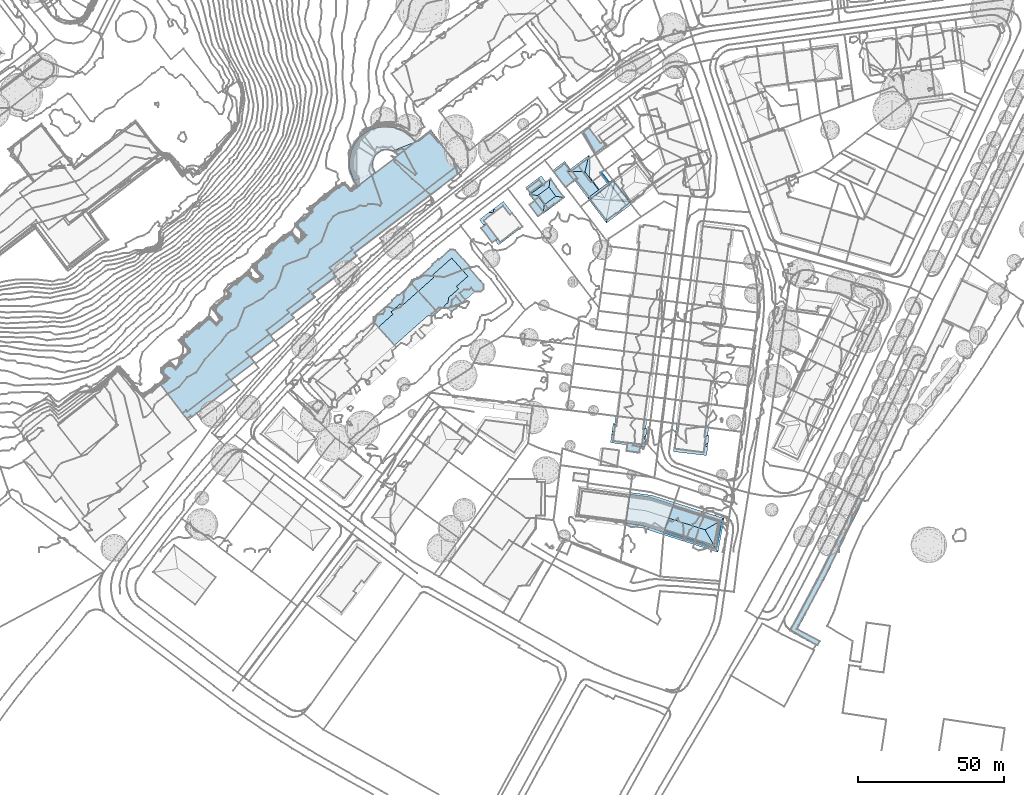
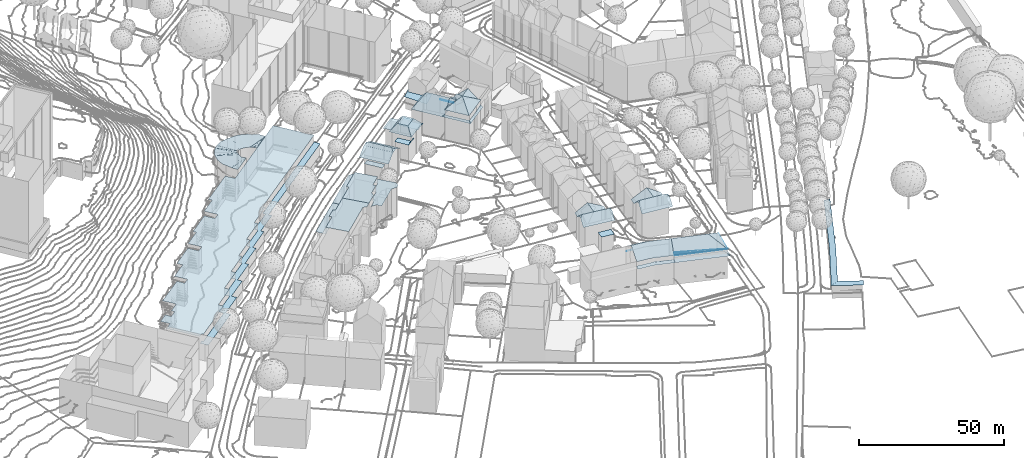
# Not in any storey, part 66 of 494: 28 roofs.
"""IFC2X3 model written with IfcOpenShell, lengths in metres."""

from ifc_helpers import new_model, si_unit, frame, origin_with_axes, place, context, subcontext, project, faceted_brep, element, save


model = new_model("IFC2X3")

# Units and contexts
model_context = context("Model", 3, precision=1e-05, world=origin_with_axes())
body_context = subcontext(model_context, "Body", "Model", "MODEL_VIEW")
ifc_project = project(units=[si_unit("AREAUNIT", "SQUARE_METRE"), si_unit("LENGTHUNIT", "METRE")], contexts=[model_context])

# Roofs
roof_1_placement = place(None, frame((352.5117320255, 77.5340160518, 499.5586), z_axis=(0.0, 0.0, 1.0), x_axis=(1.0, 0.0, 0.0)))
element("IfcRoof", 1, at=roof_1_placement, Name="Roof 1", ShapeType="NOTDEFINED", context=body_context, shape_type="Brep", body=[
    faceted_brep([(15.2990000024, 10.5371000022, 12.5588), (8.9560000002, 6.1123000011, 12.5588), (9.5549999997, 5.4375, 12.5588), (6.3170000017, 7.4219000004, 12.5588), (5.8819999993, 3.384800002, 12.5588), (1.5899999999, -1.7901000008, 12.5588), (6.5600000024, 2.621100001, 12.5588), (0.0, 0.0, 12.5588), (13.0700000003, 13.0361000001, 12.5588), (12.8830000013, 13.25, 12.5588), (8.2180000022, 9.1084000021, 12.5588), (-0.2809999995, 0.4121000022, 12.5588), (-0.3279999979, 0.370099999, 12.5588), (-0.4979999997, 1.3729999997, 12.5588)], [[[0, 1, 2]], [[3, 4, 1]], [[5, 6, 4]], [[4, 7, 5]], [[3, 7, 4]], [[1, 0, 8]], [[8, 9, 10]], [[3, 1, 10]], [[11, 12, 7]], [[3, 13, 11]], [[7, 3, 11]], [[10, 1, 8]]]),
])
roof_2_placement = place(None, frame((352.5117320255, 77.5340160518, 499.5586), z_axis=(0.0, 0.0, 1.0), x_axis=(1.0, 0.0, 0.0)))
element("IfcRoof", 2, at=roof_2_placement, Name="Roof 2", ShapeType="NOTDEFINED", context=body_context, shape_type="Brep", body=[
    faceted_brep([(7.1150000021, -8.0126999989, 15.3595), (6.5600000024, 2.621100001, 15.3595), (1.5899999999, -1.7901000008, 15.3595), (9.5549999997, 5.4375, 15.3595), (18.5270000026, 2.1182000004, 15.3595), (5.8819999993, 3.384800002, 15.3595), (8.9560000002, 6.1123000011, 15.3595), (20.1009999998, 1.884800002, 15.3595), (21.7280000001, 3.3291000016, 15.3595), (15.3010000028, 10.5381000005, 15.3595)], [[[0, 1, 2]], [[3, 1, 4]], [[5, 1, 3]], [[5, 3, 6]], [[1, 0, 4]], [[7, 8, 4]], [[9, 3, 4]], [[9, 4, 8]]]),
])
roof_3_placement = place(None, frame((365.5087320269, 90.6648160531, 499.5586), z_axis=(0.0, 0.0, 1.0), x_axis=(1.0, 0.0, 0.0)))
element("IfcRoof", 3, at=roof_3_placement, Name="Roof 0", ShapeType="NOTDEFINED", context=body_context, shape_type="Brep", body=[
    faceted_brep([(1.9189999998, 1.9239000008, 12.5588), (0.0769999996, -0.0908000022, 12.5588), (2.305999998, -2.5908000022, 12.5588), (0.0219999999, 0.2402999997, 12.5588), (0.0, 0.0, 12.5588), (12.3619999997, -8.5234000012, 12.5587), (13.6229999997, -9.9433000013, 12.5587), (12.4389999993, -6.5107000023, 12.5587), (12.5339999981, -4.9149999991, 12.5587), (10.2949999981, -8.4140000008, 12.5587), (6.9290000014, 2.7188000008, 12.5588), (7.1680000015, 6.5830999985, 12.5588), (7.5280000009, 2.0439999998, 12.5588), (-0.1140000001, 0.1191999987, 12.5588), (9.0339999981, 8.2392999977, 12.5588), (13.6550000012, 8.6895000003, 12.5588), (12.8280000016, 11.6064999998, 12.5588), (16.0089999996, -1.8310000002, 12.5587), (21.5590000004, -2.8993999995, 12.5587), (24.8040000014, -0.2294000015, 12.5587), (23.7049999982, -2.8564000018, 12.5587), (24.7529999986, -1.9248000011, 12.5587), (14.7800000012, 11.5742999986, 12.5588), (20.3209999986, 5.3242999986, 12.5587), (19.186999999, 2.4589999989, 12.5587), (15.2800000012, -1.0097000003, 12.5587), (20.1889999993, 4.9707999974, 12.5587), (20.436999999, 5.2021999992, 12.5587)], [[[0, 1, 2]], [[1, 3, 4]], [[5, 6, 7]], [[6, 8, 7]], [[5, 7, 9]], [[0, 3, 1]], [[0, 10, 11]], [[12, 10, 0]], [[13, 4, 3]], [[10, 14, 11]], [[14, 10, 15]], [[14, 15, 16]], [[12, 0, 2]], [[6, 17, 8]], [[6, 18, 17]], [[19, 18, 20]], [[21, 19, 20]], [[15, 22, 16]], [[23, 22, 15]], [[24, 25, 17]], [[24, 19, 26]], [[24, 17, 18]], [[26, 27, 23]], [[23, 15, 26]], [[26, 15, 24]], [[18, 19, 24]]]),
])
roof_4_placement = place(None, frame((365.5087320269, 90.6648160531, 499.5586), z_axis=(0.0, 0.0, 1.0), x_axis=(1.0, 0.0, 0.0)))
element("IfcRoof", 4, at=roof_4_placement, Name="Roof 1", ShapeType="NOTDEFINED", context=body_context, shape_type="Brep", body=[
    faceted_brep([(7.5280000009, 2.0439999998, 15.3595), (2.3040000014, -2.5927000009, 15.3595), (15.2800000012, -1.0097000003, 15.3595), (13.6550000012, 8.6895000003, 15.3595), (6.9290000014, 2.7188000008, 15.3595), (19.186999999, 2.4589999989, 15.3595), (12.5339999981, -4.9149999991, 15.3595), (8.7309999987, -9.8016999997, 15.3595), (12.4389999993, -6.5107000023, 15.3595), (16.0089999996, -1.8310000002, 15.3595)], [[[0, 1, 2]], [[0, 3, 4]], [[5, 3, 0]], [[5, 0, 2]], [[1, 6, 2]], [[7, 8, 6]], [[9, 2, 6]], [[7, 6, 1]]]),
])
roof_5_placement = place(None, frame((211.8297320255, 101.9383160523, 526.7541), z_axis=(0.0, 0.0, 1.0), x_axis=(1.0, 0.0, 0.0)))
element("IfcRoof", 5, at=roof_5_placement, Name="Roof 64", ShapeType="NOTDEFINED", context=body_context, shape_type="Brep", body=[
    faceted_brep([(282.887000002, -130.2734999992, -22.4803), (292.5879999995, -135.4990000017, -22.4103), (285.5199999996, -129.5850000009, -22.1683), (293.699000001, -133.6816999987, -22.0663), (285.8509999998, -129.4981000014, -22.1293), (286.8520000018, -122.9629000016, -22.4553), (288.9610000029, -118.9618999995, -22.4413), (295.0970000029, -112.2734999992, -22.0813), (308.262000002, -85.4862999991, -22.1743), (308.0360000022, -85.378899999, -22.2123), (293.1669999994, -111.2822000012, -22.4163), (306.381000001, -84.5868999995, -22.4942), (306.6080000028, -84.6953000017, -22.4562)], [[[0, 1, 2]], [[2, 3, 4]], [[3, 2, 1]], [[5, 2, 4]], [[6, 4, 7]], [[5, 4, 6]], [[5, 0, 2]], [[8, 9, 7]], [[7, 10, 6]], [[10, 7, 11]], [[12, 11, 7]], [[7, 9, 12]]]),
])
roof_6_placement = place(None, frame((389.3167320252, 109.6180160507, 499.0156), z_axis=(0.0, 0.0, 1.0), x_axis=(1.0, 0.0, 0.0)))
element("IfcRoof", 6, at=roof_6_placement, Name="Roof 0", ShapeType="NOTDEFINED", context=body_context, shape_type="Brep", body=[
    faceted_brep([(3.870000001, -5.111399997, 9.6401), (5.7160000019, -3.7118999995, 9.6401), (-0.2009999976, 0.2656000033, 9.6401), (1.6130000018, 1.6396000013, 9.6401)], [[[0, 1, 2]], [[3, 2, 1]]]),
])
roof_7_placement = place(None, frame((389.3167320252, 109.6180160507, 499.0156), z_axis=(0.0, 0.0, 1.0), x_axis=(1.0, 0.0, 0.0)))
element("IfcRoof", 7, at=roof_7_placement, Name="Roof 1", ShapeType="NOTDEFINED", context=body_context, shape_type="Brep", body=[
    faceted_brep([(10.6339999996, 5.1308000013, 10.965), (7.5760000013, 9.1689000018, 10.965), (4.3320000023, 6.7119000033, 13.2738), (13.0810000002, -0.3320999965, 11.7299), (10.6440000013, -1.620099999, 13.2737), (10.9120000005, -1.9745999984, 13.2737), (14.1560000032, 0.4814000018, 10.965), (2.5450000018, 5.3574000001, 13.2738), (4.0360000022, 5.2470000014, 14.3296), (9.2550000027, -2.6855999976, 13.7377), (3.2840000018, 4.3828000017, 13.2737), (9.4210000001, -1.8642999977, 14.3296), (9.125, -3.3290999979, 13.2737), (-0.6989999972, 2.9004000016, 10.965), (5.881000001, -5.7861999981, 10.965), (10.2460000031, -1.9247999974, 13.7447)], [[[0, 1, 2]], [[2, 3, 0]], [[4, 5, 3]], [[6, 0, 3]], [[3, 2, 4]], [[2, 7, 8]], [[8, 7, 9]], [[9, 7, 10]], [[11, 8, 9]], [[9, 10, 12]], [[13, 10, 7]], [[10, 13, 14]], [[14, 12, 10]], [[9, 12, 5]], [[15, 11, 9]], [[5, 15, 9]], [[2, 8, 4]], [[11, 15, 4]], [[5, 4, 15]], [[11, 4, 8]]]),
])
roof_8_placement = place(None, frame((405.0787320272, 122.9930160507, 499.2066), z_axis=(0.0, 0.0, 1.0), x_axis=(1.0, 0.0, 0.0)))
element("IfcRoof", 8, at=roof_8_placement, Name="Roof 0", ShapeType="NOTDEFINED", context=body_context, shape_type="Brep", body=[
    faceted_brep([(5.6070000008, -7.8857999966, 8.2642), (2.5229999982, -3.8632999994, 8.2642), (0.4899999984, -5.3691999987, 8.2642), (3.5839999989, -9.5458999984, 8.2642), (7.2789999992, -6.8085999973, 8.2642), (7.1750000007, -6.6679999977, 8.2642)], [[[0, 1, 2]], [[0, 3, 4]], [[3, 0, 2]], [[0, 4, 5]]]),
])
roof_9_placement = place(None, frame((405.0787320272, 122.9930160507, 499.2066), z_axis=(0.0, 0.0, 1.0), x_axis=(1.0, 0.0, 0.0)))
element("IfcRoof", 9, at=roof_9_placement, Name="Roof 1", ShapeType="NOTDEFINED", context=body_context, shape_type="Brep", body=[
    faceted_brep([(3.4679999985, -2.2675999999, 13.0277), (5.7729999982, -5.3779999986, 13.0277), (7.4089999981, 0.6523000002, 13.0277), (9.7139999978, -2.4570999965, 13.0277), (5.4230000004, 1.2763000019, 10.721), (5.563000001, 1.0937000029, 10.721), (5.5599999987, 1.3779000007, 10.721), (5.6979999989, 1.1972000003, 10.721), (1.1939999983, -1.8564999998, 10.721), (1.5280000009, -1.9912, 10.721), (1.3409999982, -1.7470999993, 10.721), (1.3790000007, -2.1064999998, 10.721), (6.432, 2.2226000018, 10.721), (4.748999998, 4.496100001, 10.721), (-0.6570000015, 0.4883000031, 10.721), (1.0260000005, -1.7822999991, 10.721), (7.7690000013, 3.7187000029, 10.213), (6.3370000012, 2.3515000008, 10.521), (7.7100000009, 3.2187000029, 10.672), (5.0779999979, 1.7256000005, 10.213), (5.2280000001, 1.5293000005, 10.521), (1.4620000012, -1.9042999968, 11.1689), (1.1459999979, -1.4941999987, 10.521), (1.0, -1.2949999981, 10.213), (0.9959999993, -1.2978999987, 10.213), (0.930999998, -1.6532999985, 10.521), (0.4299999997, -1.7187999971, 10.213), (5.4959999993, -7.7402999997, 10.8589), (5.4129999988, -8.4433999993, 10.213), (12.3969999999, -2.9423999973, 10.542), (12.7520000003, -3.0058999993, 10.213), (9.9129999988, 0.8252000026, 10.213), (7.9809999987, 3.4267000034, 10.213)], [[[0, 1, 2]], [[3, 2, 1]], [[4, 5, 6]], [[7, 6, 5]], [[8, 9, 10]], [[11, 9, 8]], [[12, 13, 14]], [[15, 12, 14]], [[16, 17, 18]], [[17, 16, 19]], [[19, 20, 17]], [[18, 12, 2]], [[12, 18, 17]], [[2, 12, 21]], [[22, 23, 24]], [[22, 24, 25]], [[25, 24, 26]], [[2, 21, 0]], [[15, 25, 26]], [[12, 15, 21]], [[21, 15, 26]], [[27, 28, 29]], [[1, 27, 3]], [[29, 3, 27]], [[30, 29, 28]], [[21, 1, 0]], [[27, 21, 26]], [[21, 27, 1]], [[27, 26, 28]], [[2, 29, 31]], [[2, 3, 29]], [[29, 30, 31]], [[31, 32, 18]], [[16, 18, 32]], [[31, 18, 2]]]),
])
roof_10_placement = place(None, frame((434.497732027, 36.682416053, 499.5704), z_axis=(0.0, 0.0, 1.0), x_axis=(1.0, 0.0, 0.0)))
element("IfcRoof", 10, at=roof_10_placement, Name="Roof 0", ShapeType="NOTDEFINED", context=body_context, shape_type="Brep", body=[
    faceted_brep([(4.7969999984, -0.5956999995, 7.4243), (4.375, -3.6435000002, 7.4243), (9.1459999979, -4.3037, 7.4243), (9.5789999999, -1.1737999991, 7.4243)], [[[0, 1, 2]], [[2, 3, 0]]]),
])
roof_11_placement = place(None, frame((434.497732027, 36.682416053, 499.5704), z_axis=(0.0, 0.0, 1.0), x_axis=(1.0, 0.0, 0.0)))
element("IfcRoof", 11, at=roof_11_placement, Name="Roof 1", ShapeType="NOTDEFINED", context=body_context, shape_type="Brep", body=[
    faceted_brep([(10.2470000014, 4.1396999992, 11.8349), (10.3559999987, 1.2793000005, 14.5296), (11.2010000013, 1.9560999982, 13.7787), (4.6660000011, 2.066399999, 14.5296), (-0.6469999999, 1.9296999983, 13.7267), (10.6349999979, -2.1317999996, 11.4229), (-0.9860000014, -0.5223999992, 11.4229), (10.9739999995, 0.3213, 13.7267), (0.2529999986, 2.6777999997, 14.5296), (1.1220000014, 5.3095999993, 11.9249), (0.4389999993, 5.933600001, 11.4229), (-0.0819999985, 6.0058999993, 11.4229), (-0.4200000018, 3.5645000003, 13.7787), (5.4829999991, 7.9668000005, 14.5296), (1.3920000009, 8.4776000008, 11.8149), (1.5179999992, 8.4609999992, 11.8989), (10.6510000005, 7.3222999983, 11.8539), (11.4820000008, 7.2188000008, 11.4229), (11.1000000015, 4.4560999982, 11.4229), (0.8610000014, 8.5439999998, 11.4659), (0.800999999, 8.5517999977, 11.4229), (11.5390000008, 4.3964999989, 11.4229), (1.5179999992, 8.4609999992, 11.6989), (2.4149999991, 8.3495999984, 12.3438)], [[[0, 1, 2]], [[0, 3, 1]], [[4, 5, 3]], [[3, 5, 1]], [[5, 4, 6]], [[1, 5, 7]], [[8, 3, 9]], [[9, 10, 11]], [[11, 12, 9]], [[9, 12, 8]], [[9, 3, 13]], [[10, 9, 14]], [[15, 14, 9]], [[13, 15, 9]], [[4, 3, 8]], [[13, 3, 16]], [[16, 3, 0]], [[17, 16, 0]], [[17, 0, 18]], [[10, 14, 19]], [[10, 19, 20]], [[12, 4, 8]], [[2, 21, 0]], [[0, 21, 18]], [[7, 2, 1]], [[13, 22, 23]]]),
])
roof_12_placement = place(None, frame((455.554732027, 34.0604160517, 499.4054), z_axis=(0.0, 0.0, 1.0), x_axis=(1.0, 0.0, 0.0)))
element("IfcRoof", 12, at=roof_12_placement, Name="Roof 0", ShapeType="NOTDEFINED", context=body_context, shape_type="Brep", body=[
    faceted_brep([(6.4129999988, 7.821200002, 14.9436), (10.3429999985, 5.5487999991, 12.2718), (10.1829999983, 7.3427000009, 12.5078), (10.4869999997, 4.1748000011, 12.0768), (5.7109999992, 1.8496000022, 14.9436), (1.3759999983, 8.4598999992, 12.0549), (0.5540000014, 8.5654000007, 11.5829), (0.2410000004, 5.9002999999, 11.5829), (10.561999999, 7.2928999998, 12.2588), (11.5520000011, 7.1669000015, 11.6089), (11.2989999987, 4.6015000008, 11.5829), (10.1570000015, 1.3280999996, 14.9436), (10.3090000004, 1.7607000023, 14.5006), (10.4400000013, 3.9218000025, 12.3338), (11.3880000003, 1.9482000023, 14.1886), (11.693, 4.5546000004, 11.5829), (0.7010000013, 2.4384000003, 14.9436), (-0.2390000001, 1.8134000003, 14.2466), (11.2129999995, 0.4686999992, 14.2466), (-0.5659999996, -0.9619999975, 11.5829), (10.8880000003, -2.3066999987, 11.5829), (0.3559999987, 2.8232000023, 14.6046), (-0.0659999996, 3.2939000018, 14.1887)], [[[0, 1, 2]], [[1, 0, 3]], [[4, 3, 0]], [[5, 6, 4]], [[4, 0, 5]], [[4, 6, 7]], [[1, 3, 8]], [[9, 3, 10]], [[8, 2, 1]], [[9, 8, 3]], [[11, 12, 13]], [[10, 13, 12]], [[14, 15, 12]], [[12, 15, 10]], [[12, 11, 14]], [[4, 16, 17]], [[18, 17, 19]], [[18, 4, 17]], [[11, 4, 18]], [[18, 19, 20]], [[11, 18, 14]], [[4, 11, 13]], [[4, 13, 3]], [[4, 21, 16]], [[21, 4, 22]], [[7, 22, 4]], [[21, 22, 17]], [[17, 16, 21]], [[13, 10, 3]]]),
])
roof_13_placement = place(None, frame((424.3367320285, 142.6277160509, 499.4686), z_axis=(0.0, 0.0, 1.0), x_axis=(1.0, 0.0, 0.0)))
element("IfcRoof", 13, at=roof_13_placement, Name="Roof 0", ShapeType="NOTDEFINED", context=body_context, shape_type="Brep", body=[
    faceted_brep([(7.5029999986, -4.8016999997, 5.9294), (7.868999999, -4.5262999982, 6.0304), (6.9169999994, -3.2236000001, 6.0304), (5.8249999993, -4.0233999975, 5.7334), (4.1789999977, -7.3768999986, 5.0075), (4.1419999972, -7.3172999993, 5.0085), (-0.3900000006, 0.1856000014, 5.1775), (3.4469999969, -6.1659999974, 5.0345), (1.8729999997, 1.379900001, 5.7334), (2.7859999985, 2.4239000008, 6.0304), (2.7459999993, 2.4786000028, 6.0304), (2.4809999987, 2.2012000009, 5.9474), (2.6589999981, 1.9590000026, 5.9474)], [[[0, 1, 2]], [[0, 2, 3]], [[4, 0, 5]], [[6, 7, 3]], [[3, 7, 5]], [[6, 3, 8]], [[0, 3, 5]], [[9, 10, 11]], [[11, 10, 6]], [[12, 11, 8]], [[11, 6, 8]]]),
])
roof_14_placement = place(None, frame((287.111732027, 46.2742160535, 500.3625), z_axis=(0.0, 0.0, 1.0), x_axis=(1.0, 0.0, 0.0)))
element("IfcRoof", 14, at=roof_14_placement, Name="Roof 0", ShapeType="NOTDEFINED", context=body_context, shape_type="Brep", body=[
    faceted_brep([(58.932, 54.9345999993, 7.1803), (95.7170000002, 83.0341999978, 7.1803), (58.2199999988, 55.8594000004, 7.1803), (94.2949999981, 84.8827999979, 7.1803), (51.1259999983, 48.7148999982, 7.1803), (50.3110000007, 49.7714999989, 7.1803), (57.6119999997, 56.6493999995, 7.1803), (51.7800000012, 47.8662, 7.1803), (43.0359999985, 42.4872999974, 7.1803), (59.686999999, 53.9511999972, 7.1803), (43.8249999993, 41.4657999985, 7.1803), (52.495000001, 46.9355999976, 7.1803), (45.1600000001, 39.7275999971, 7.1803), (36.5020000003, 34.3154999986, 7.1803), (37.3500000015, 33.7159000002, 7.1803), (44.4059999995, 40.7099999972, 7.1803), (38.1750000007, 32.6425999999, 7.1803), (29.7670000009, 27.0273999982, 7.1803), (35.7699999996, 35.2656999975, 7.1803), (38.131000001, 32.6006000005, 7.1803), (28.7509999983, 28.3476999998, 7.1803), (30.2039999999, 26.5136999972, 7.1803), (21.7800000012, 20.8798999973, 7.1803), (30.180999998, 26.4892999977, 7.1803), (22.9389999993, 19.3740999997, 7.1803), (14.9120000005, 13.1963, 7.1803), (23.5199999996, 19.0859999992, 7.1803), (31.2809999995, 25.0595999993, 7.1803), (16.1149999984, 11.6327999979, 7.1803), (24.7349999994, 17.5068999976, 7.1803), (16.6889999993, 11.3125, 7.1803), (17.8409999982, 9.8154999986, 7.1803), (1.8920000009, -2.4599000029, 7.1803), (1.6050000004, 0.4657999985, 7.1803), (1.2320000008, 0.9492000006, 7.1803), (0.0, 0.0, 7.1803)], [[[0, 1, 2]], [[1, 3, 2]], [[4, 0, 5]], [[6, 2, 3]], [[4, 7, 0]], [[5, 0, 2]], [[7, 4, 8]], [[7, 9, 0]], [[10, 11, 7]], [[12, 13, 14]], [[15, 13, 12]], [[10, 15, 11]], [[16, 14, 17]], [[18, 15, 10]], [[7, 8, 10]], [[19, 16, 17]], [[14, 13, 20]], [[17, 21, 19]], [[13, 15, 18]], [[20, 17, 14]], [[22, 23, 21]], [[22, 24, 23]], [[24, 25, 26]], [[24, 27, 23]], [[22, 21, 17]], [[26, 27, 24]], [[28, 29, 26]], [[28, 30, 29]], [[31, 30, 32]], [[33, 34, 35]], [[33, 35, 32]], [[30, 33, 32]], [[33, 30, 28]], [[28, 26, 25]]]),
])
roof_15_placement = place(None, frame((287.111732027, 46.2742160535, 500.3625), z_axis=(0.0, 0.0, 1.0), x_axis=(1.0, 0.0, 0.0)))
element("IfcRoof", 15, at=roof_15_placement, Name="Roof 4", ShapeType="NOTDEFINED", context=body_context, shape_type="Brep", body=[
    faceted_brep([(14.9120000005, 13.1963, 10.0761), (-5.1009999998, 11.7870999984, 10.0761), (1.2320000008, 0.9492000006, 10.076), (0.0, 0.0, 10.0761), (-7.5949999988, 9.8671999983, 10.0761), (-2.5910000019, 15.3271999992, 10.0761), (-7.251000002, 14.5810999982, 10.0761), (-0.1440000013, 17.2118999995, 10.0761), (28.7509999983, 28.3476999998, 10.0761), (1.6050000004, 0.4657999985, 10.076), (16.1149999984, 11.6327999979, 10.076), (22.9389999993, 19.373999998, 10.0761), (21.7800000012, 20.8798999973, 10.0761), (29.7670000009, 27.0273999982, 10.0761), (36.5020000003, 34.3154999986, 10.0761), (35.7699999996, 35.2656999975, 10.0761), (2.631000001, 20.9150999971, 10.0761), (-3.9640000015, 17.111399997, 10.0761), (-0.9030000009, 18.1963, 10.0761), (11.4160000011, 30.2949000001, 10.0761), (11.3370000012, 30.4052999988, 10.0761), (-0.4759999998, 24.9521999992, 10.0761), (9.6420000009, 32.5976999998, 10.0761), (13.373999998, 31.8007999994, 10.0761), (25.2809999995, 44.6347999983, 10.0761), (16.2939999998, 40.1464999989, 10.0761), (27.3409999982, 46.2197999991, 10.0761), (10.425999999, 35.6308999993, 10.0761), (22.7939999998, 47.8671999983, 10.0761), (14.9800000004, 41.8544999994, 10.0761), (43.0359999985, 42.4872999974, 10.0761), (43.8249999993, 41.4657999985, 10.0761), (50.3110000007, 49.7714999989, 10.0761), (30.1050000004, 54.7197999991, 10.0761), (39.8319999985, 58.6923999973, 10.0761), (24.2609999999, 50.2216999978, 10.0761), (41.8640000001, 60.2568999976, 10.0761), (57.6119999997, 56.6493999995, 10.0761), (51.1259999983, 48.7148999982, 10.0761), (58.2199999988, 55.8594000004, 10.0761), (57.8099999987, 76.0439999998, 10.0761), (94.2949999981, 84.8827999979, 10.0761), (44.4690000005, 68.7021999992, 10.0761), (29.3720000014, 55.6719000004, 10.0761), (37.4019999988, 61.8515999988, 10.0761), (38.7520000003, 64.3017999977, 10.0761), (43.6530000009, 69.753899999, 10.0761), (44.305999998, 68.9091999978, 10.0761), (48.7690000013, 73.6845999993, 10.0761), (79.7149999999, 92.9023999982, 10.0761), (73.7399999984, 88.3037, 10.0761), (55.5920000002, 78.9257999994, 10.0761), (84.9959999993, 96.9668000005, 10.0761)], [[[0, 1, 2]], [[3, 2, 4]], [[1, 5, 6]], [[1, 4, 2]], [[7, 5, 1]], [[7, 1, 8]], [[2, 9, 10]], [[0, 11, 12]], [[10, 0, 2]], [[12, 8, 1]], [[8, 12, 13]], [[8, 14, 15]], [[7, 8, 16]], [[0, 12, 1]], [[16, 8, 15]], [[6, 5, 17]], [[16, 18, 7]], [[19, 20, 16]], [[21, 20, 22]], [[21, 16, 20]], [[16, 23, 19]], [[23, 24, 25]], [[26, 24, 23]], [[25, 27, 23]], [[28, 29, 25]], [[25, 24, 28]], [[16, 15, 23]], [[30, 23, 15]], [[31, 30, 15]], [[26, 23, 32]], [[32, 23, 30]], [[33, 26, 34]], [[33, 35, 26]], [[36, 34, 26]], [[36, 26, 37]], [[38, 32, 30]], [[32, 39, 37]], [[37, 40, 36]], [[40, 37, 41]], [[37, 26, 32]], [[42, 36, 40]], [[43, 33, 44]], [[36, 42, 45]], [[46, 47, 48]], [[48, 47, 42]], [[33, 34, 44]], [[49, 50, 41]], [[40, 41, 50]], [[40, 51, 48]], [[48, 42, 40]], [[52, 49, 41]]]),
])
roof_16_placement = place(None, frame((287.111732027, 46.2742160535, 500.3625), z_axis=(0.0, 0.0, 1.0), x_axis=(1.0, 0.0, 0.0)))
element("IfcRoof", 16, at=roof_16_placement, Name="Roof 5", ShapeType="NOTDEFINED", context=body_context, shape_type="Brep", body=[
    faceted_brep([(71.7829999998, 89.7665999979, 10.0041), (71.7010000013, 89.7392999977, 10.0061), (72.7749999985, 89.2109999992, 9.8641), (79.6519999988, 92.8534999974, 9.8361), (72.9890000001, 89.1044999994, 9.8361), (73.25, 88.8398999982, 9.8361), (73.5579999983, 88.5312999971, 9.8361), (73.7740000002, 88.3290999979, 9.8361)], [[[0, 1, 2]], [[3, 2, 4]], [[2, 3, 0]], [[3, 5, 6]], [[7, 3, 6]], [[3, 4, 5]]]),
])
roof_17_placement = place(None, frame((287.111732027, 46.2742160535, 500.3625), z_axis=(0.0, 0.0, 1.0), x_axis=(1.0, 0.0, 0.0)))
element("IfcRoof", 17, at=roof_17_placement, Name="Roof 6", ShapeType="NOTDEFINED", context=body_context, shape_type="Brep", body=[
    faceted_brep([(70.4869999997, 98.0429999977, 10.1411), (67.4470000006, 97.9140999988, 10.1411), (70.0219999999, 90.1699000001, 10.1411), (72.0909999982, 97.8105999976, 10.1411), (70.0929999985, 90.1484999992, 10.1351), (71.7019999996, 89.7392999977, 10.0061), (65.0579999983, 97.3466999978, 10.3241), (68.0170000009, 90.0361999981, 10.4021), (64.381000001, 97.1855999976, 10.3761), (69.6559999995, 90.1464999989, 10.1891), (69.2219999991, 90.1132999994, 10.2451), (78.0089999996, 94.7294999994, 10.1411), (75.7809999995, 96.3847999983, 10.1411), (71.7829999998, 89.7665999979, 10.0041), (79.6539999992, 92.8544999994, 9.8361), (63.8220000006, 96.8057000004, 10.4571), (61.7819999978, 95.4219000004, 10.753), (67.1900000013, 89.3798999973, 10.6), (66.557, 88.8691999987, 10.753), (60.3469999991, 94.1474999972, 10.877), (65.557, 87.5995999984, 11.102), (57.682, 89.7196999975, 11.353), (65.0009999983, 85.9736999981, 11.528), (58.6970000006, 91.8827999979, 11.102), (65.5130000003, 87.6270000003, 11.102), (57.0460000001, 86.6904999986, 11.528), (57.1569999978, 83.7168000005, 11.7499), (65.0410000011, 84.2011999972, 11.528), (58.5159999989, 79.6083999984, 12.0879), (57.5599999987, 81.8847999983, 12.0879), (65.8959999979, 82.2675999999, 12.0879), (59.8660000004, 77.623999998, 12.0879)], [[[0, 1, 2]], [[2, 3, 0]], [[4, 3, 2]], [[3, 4, 5]], [[6, 7, 1]], [[7, 6, 8]], [[9, 2, 1]], [[10, 1, 7]], [[1, 10, 9]], [[11, 3, 5]], [[3, 11, 12]], [[13, 14, 11]], [[13, 11, 5]], [[15, 16, 7]], [[7, 8, 15]], [[17, 7, 16]], [[16, 18, 17]], [[18, 19, 20]], [[19, 18, 16]], [[20, 21, 22]], [[23, 21, 24]], [[20, 24, 21]], [[19, 23, 24]], [[19, 24, 20]], [[25, 26, 27]], [[22, 25, 27]], [[21, 25, 22]], [[28, 26, 29]], [[26, 28, 27]], [[30, 27, 28]], [[28, 31, 30]]]),
])
roof_18_placement = place(None, frame((440.0417320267, 17.4568160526, 499.2944), z_axis=(0.0, 0.0, 1.0), x_axis=(1.0, 0.0, 0.0)))
element("IfcRoof", 18, at=roof_18_placement, Name="Roof 0", ShapeType="NOTDEFINED", context=body_context, shape_type="Brep", body=[
    faceted_brep([(4.7989999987, -9.6064000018, 10.36), (4.5890000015, -10.558600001, 9.7181), (11.7839999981, -11.8583999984, 10.352), (5.2930000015, -9.6708999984, 10.419), (11.7039999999, -12.8456999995, 9.7131), (-1.3869999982, -9.807599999, 9.7181), (-1.245000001, -8.8037, 10.388)], [[[0, 1, 2]], [[0, 2, 3]], [[2, 1, 4]], [[1, 0, 5]], [[6, 5, 0]]]),
])
roof_19_placement = place(None, frame((440.0417320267, 17.4568160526, 499.2944), z_axis=(0.0, 0.0, 1.0), x_axis=(1.0, 0.0, 0.0)))
element("IfcRoof", 19, at=roof_19_placement, Name="Roof 1", ShapeType="NOTDEFINED", context=body_context, shape_type="Brep", body=[
    faceted_brep([(14.9800000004, -2.8271000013, 12.5398), (5.5150000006, -4.5918000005, 15.7855), (13.4539999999, -7.1367000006, 15.7855), (6.6510000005, -0.1435000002, 12.5308), (15.1220000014, -2.4248000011, 12.2368), (6.7540000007, 0.2608000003, 12.2348), (-0.2149999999, -1.4891999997, 14.1117), (0.1519999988, 1.1143000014, 12.2348), (-0.5419999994, -3.8104999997, 15.7855), (-1.2630000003, -8.9237999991, 12.2348), (4.0, -9.6044999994, 12.2348), (-1.2459999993, -8.8037, 12.3178), (11.7839999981, -11.8583999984, 12.3908), (11.7650000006, -12.0936999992, 12.2348)], [[[0, 1, 2]], [[3, 0, 4]], [[3, 1, 0]], [[5, 3, 4]], [[3, 6, 1]], [[7, 3, 5]], [[6, 8, 1]], [[6, 3, 7]], [[9, 10, 11]], [[10, 1, 8]], [[10, 8, 11]], [[12, 2, 1]], [[13, 12, 10]], [[10, 12, 1]]]),
])
roof_20_placement = place(None, frame((440.0417320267, 17.4568160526, 499.2944), z_axis=(0.0, 0.0, 1.0), x_axis=(1.0, 0.0, 0.0)))
element("IfcRoof", 20, at=roof_20_placement, Name="Roof 2", ShapeType="NOTDEFINED", context=body_context, shape_type="Brep", body=[
    faceted_brep([(14.9789999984, -2.8271000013, 10.473), (15.3610000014, -1.7490000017, 9.7171), (7.4470000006, -0.3993999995, 10.465), (7.6939999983, 0.7071000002, 9.7181), (6.4149999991, -0.0672999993, 10.335), (0.1160000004, 0.7520000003, 10.335), (0.2309999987, 1.6768000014, 9.7181), (0.1090000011, 0.7529999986, 10.335), (0.004999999, -0.0009000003, 10.839), (0.0, 0.0, 10.839)], [[[0, 1, 2]], [[3, 2, 1]], [[4, 3, 5]], [[5, 3, 6]], [[2, 3, 4]], [[6, 7, 5]], [[8, 5, 7]], [[7, 9, 8]]]),
])
roof_21_placement = place(None, frame((451.8257320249, 5.5984160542, 499.1684), z_axis=(0.0, 0.0, 1.0), x_axis=(1.0, 0.0, 0.0)))
element("IfcRoof", 21, at=roof_21_placement, Name="Roof 0", ShapeType="NOTDEFINED", context=body_context, shape_type="Brep", body=[
    faceted_brep([(17.8280000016, -5.9004000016, 12.3998), (0.2470000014, 0.6933999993, 13.0158), (-0.0189999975, -0.2353000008, 12.3608), (0.0, 0.0, 12.5168), (17.8730000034, -5.9716000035, 12.3608), (19.8980000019, 4.1191999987, 12.3668)], [[[0, 1, 2]], [[2, 1, 3]], [[2, 4, 0]], [[4, 5, 0]]]),
])
roof_22_placement = place(None, frame((451.8257320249, 5.5984160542, 499.1684), z_axis=(0.0, 0.0, 1.0), x_axis=(1.0, 0.0, 0.0)))
element("IfcRoof", 22, at=roof_22_placement, Name="Roof 1", ShapeType="NOTDEFINED", context=body_context, shape_type="Brep", body=[
    faceted_brep([(17.8280000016, -5.9004000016, 12.3998), (19.8980000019, 4.1191999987, 12.3668), (19.2410000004, 3.7402999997, 12.7658), (14.0580000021, 0.7490999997, 15.9115), (3.3380000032, 9.4335999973, 12.3628), (3.0110000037, 8.5088, 13.0588), (3.1960000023, 9.0312999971, 12.6658), (1.6700000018, 4.7216999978, 15.9115), (0.2470000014, 0.6933999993, 13.0158), (19.318, 3.7841999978, 12.5188), (19.319000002, 3.7890999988, 12.5188), (3.3380000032, 9.4335999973, 12.1628)], [[[0, 1, 2]], [[0, 2, 3]], [[2, 1, 4]], [[3, 2, 5]], [[4, 6, 2]], [[7, 3, 5]], [[5, 2, 6]], [[8, 0, 3]], [[8, 3, 7]], [[9, 10, 11]]]),
])
roof_23_placement = place(None, frame((451.8257320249, 5.5984160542, 499.1684), z_axis=(0.0, 0.0, 1.0), x_axis=(1.0, 0.0, 0.0)))
element("IfcRoof", 23, at=roof_23_placement, Name="Roof 2", ShapeType="NOTDEFINED", context=body_context, shape_type="Brep", body=[
    faceted_brep([(18.6110000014, -0.5595000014, 10.524), (18.4890000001, -6.9599000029, 9.826), (20.5940000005, 4.6581999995, 9.84), (19.2550000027, 3.8320999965, 10.63), (18.688000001, 3.4833999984, 10.9649), (3.1960000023, 9.0312999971, 10.599), (3.5770000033, 10.1093999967, 9.8431), (3.0390000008, 8.5, 10.965), (3.0110000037, 8.5088, 10.965), (17.1790000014, -4.7314000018, 10.9649), (17.8360000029, -5.8486000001, 10.394), (0.2460000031, 0.6953999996, 10.965), (0.0, 0.0, 10.478), (-0.0799999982, -0.9873000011, 9.8391)], [[[0, 1, 2]], [[3, 4, 0]], [[2, 3, 0]], [[3, 5, 4]], [[6, 3, 2]], [[5, 7, 4]], [[8, 7, 5]], [[5, 3, 6]], [[0, 4, 9]], [[10, 1, 0]], [[9, 10, 0]], [[11, 12, 9]], [[10, 12, 13]], [[12, 10, 9]], [[10, 13, 1]]]),
])
roof_24_placement = place(None, frame((426.7187320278, 119.498816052, 512.4143), z_axis=(0.0, 0.0, 1.0), x_axis=(1.0, 0.0, 0.0)))
element("IfcRoof", 24, at=roof_24_placement, Name="Roof 0", ShapeType="NOTDEFINED", context=body_context, shape_type="Brep", body=[
    faceted_brep([(7.7679999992, 6.2910000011, -2.3738), (7.4289999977, 6.7265999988, -2.9187), (6.5769999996, 5.3770000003, -2.3578), (7.8599999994, 6.1728999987, -2.2258), (6.6579999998, 5.2696000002, -2.2258), (6.2179999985, 5.1006000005, -2.3538), (-1.0089999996, 0.3876999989, -2.9187), (0.1889999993, 0.1464999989, -2.0188), (6.3579999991, 4.9307000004, -2.1358), (0.0009999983, -0.0009000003, -2.2828), (-0.4519999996, -0.3544999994, -2.9187), (5.4059999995, -8.1523000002, -2.9187), (5.4699999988, -7.1356999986, -2.1858), (12.5920000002, -2.4891999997, -2.9187), (12.2329999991, -2.0106999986, -2.9187), (11.8489999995, -2.3095000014, -2.3598), (10.5830000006, -3.3271000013, -2.2098), (5.4859999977, -7.1561999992, -2.2098), (13.981999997, -1.7089999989, -2.9187), (13.4690000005, -1.0507999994, -2.1288), (10.5859999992, -3.2899999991, -2.1838)], [[[0, 1, 2]], [[3, 2, 4]], [[2, 3, 0]], [[1, 5, 2]], [[5, 6, 7]], [[6, 5, 1]], [[8, 5, 7]], [[6, 9, 7]], [[9, 6, 10]], [[11, 12, 9]], [[9, 10, 11]], [[13, 14, 15]], [[11, 16, 17]], [[16, 11, 18]], [[17, 12, 11]], [[16, 18, 19]], [[20, 16, 19]]]),
])
roof_25_placement = place(None, frame((426.7187320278, 119.498816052, 512.4143), z_axis=(0.0, 0.0, 1.0), x_axis=(1.0, 0.0, 0.0)))
element("IfcRoof", 25, at=roof_25_placement, Name="Roof 1", ShapeType="NOTDEFINED", context=body_context, shape_type="Brep", body=[
    faceted_brep([(3.2309999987, 2.5058999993, 2.2438), (1.6639999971, 1.2901000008, 0.048), (4.8479999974, 0.3535000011, 2.2438), (7.8599999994, 6.1728999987, -0.103), (6.6579999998, 5.2696000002, -0.103), (8.0909999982, 5.875, 0.208), (8.2259999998, 6.4483000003, -0.103), (6.299999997, 4.8858000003, -0.027), (6.3579999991, 4.9307000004, -0.028), (6.3299999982, 4.9659000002, -0.065), (6.299999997, 5.001000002, -0.103), (1.8049999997, 1.3984999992, 0.045), (-0.2459999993, 0.0830000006, -0.103), (6.6279999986, -0.3466999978, 3.5887), (0.0810000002, 0.0625, 0.072), (13.3479999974, -0.8973999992, 0.116), (13.7709999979, -0.9316000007, -0.103), (12.8550000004, -0.2597000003, 0.123), (12.7229999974, -0.0907999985, 0.126), (8.4719999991, 5.3838, 0.201), (8.3399999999, 5.5547000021, 0.204), (10.5830000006, -3.3271000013, -0.103), (5.3579999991, -6.9891999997, 0.061), (5.2989999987, -7.2967999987, -0.103), (5.4859999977, -7.1561999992, -0.103), (6.3579999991, 4.9307000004, 0.134), (6.5769999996, 5.3770000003, -0.103), (6.2179999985, 5.1006000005, 0.139), (10.6039999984, 2.6396999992, 3.5887)], [[[0, 1, 2]], [[3, 4, 5]], [[3, 5, 6]], [[7, 8, 9]], [[7, 10, 11]], [[11, 12, 1]], [[12, 11, 10]], [[2, 5, 4]], [[13, 2, 14]], [[13, 5, 2]], [[1, 14, 2]], [[14, 1, 12]], [[7, 9, 10]], [[15, 16, 17]], [[15, 17, 13]], [[18, 17, 16]], [[16, 6, 18]], [[19, 6, 20]], [[6, 19, 18]], [[13, 20, 5]], [[5, 20, 6]], [[15, 21, 16]], [[21, 15, 13]], [[22, 23, 24]], [[21, 13, 24]], [[24, 13, 22]], [[14, 12, 22]], [[14, 22, 13]], [[22, 12, 23]], [[25, 0, 2]], [[4, 26, 27]], [[4, 25, 2]], [[4, 27, 25]], [[13, 17, 28]], [[28, 20, 13]]]),
])
roof_26_placement = place(None, frame((414.2377320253, 128.8357160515, 499.3706), z_axis=(0.0, 0.0, 1.0), x_axis=(1.0, 0.0, 0.0)))
element("IfcRoof", 26, at=roof_26_placement, Name="Roof 0", ShapeType="NOTDEFINED", context=body_context, shape_type="Brep", body=[
    faceted_brep([(6.1000000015, 0.3428000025, 5.0155), (3.6330000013, 3.626000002, 5.0155), (5.2790000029, 0.7675999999, 5.0155), (4.5710000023, 0.2364000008, 5.0155), (5.7880000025, 0.1026000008, 5.0155), (7.5850000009, -2.7645999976, 5.0155), (7.4070000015, -2.5370999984, 5.0155), (6.9299999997, -2.9043000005, 5.0155), (4.064000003, -5.4111000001, 5.0155), (-0.430999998, 0.5733000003, 5.0155)], [[[0, 1, 2]], [[2, 1, 3]], [[0, 2, 4]], [[5, 6, 7]], [[7, 3, 8]], [[8, 3, 9]], [[7, 8, 5]], [[9, 3, 1]]]),
])
roof_27_placement = place(None, frame((414.2377320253, 128.8357160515, 499.3706), z_axis=(0.0, 0.0, 1.0), x_axis=(1.0, 0.0, 0.0)))
element("IfcRoof", 27, at=roof_27_placement, Name="Roof 1", ShapeType="NOTDEFINED", context=body_context, shape_type="Brep", body=[
    faceted_brep([(6.9299999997, -2.9043000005, 10.125), (12.0290000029, -9.691399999, 10.125), (12.4820000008, -9.3377999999, 10.7609), (11.875, -1.7225999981, 15.2875), (15.7120000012, -6.8310000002, 15.2875), (10.5520000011, 0.0381000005, 15.2875), (5.9030000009, 0.192400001, 11.2749), (5.7149999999, 0.1983000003, 11.1129), (4.5710000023, 0.2364000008, 10.125), (12.0820000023, -0.7635999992, 14.4346), (12.0800000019, -0.7811999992, 14.4476), (15.9680000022, -6.6327999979, 14.9155), (14.9570000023, -5.3368999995, 14.9495), (13.9700000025, -4.0399999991, 14.9605), (12.0320000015, -1.3924999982, 14.9155), (12.9960000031, -2.7254999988, 14.9495), (12.0510000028, 4.5469000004, 10.589), (11.824000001, 4.7520000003, 10.311), (12.0089999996, 4.5146999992, 10.589), (12.0720000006, 5.1905000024, 10.125), (10.0890000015, 3.4288000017, 10.326), (8.2140000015, 2.2919999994, 10.125), (8.3619999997, 2.0947999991, 10.352), (12.2019999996, 0.7696000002, 13.2627), (12.3289999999, 4.7618000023, 10.385), (11.6180000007, 4.5938000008, 11.1549), (11.8839999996, 5.7285999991, 10.125), (12.5080000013, 4.8995000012, 10.125), (5.2790000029, 0.7675999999, 10.125)], [[[0, 1, 2]], [[3, 2, 4]], [[3, 5, 6]], [[3, 6, 0]], [[0, 7, 8]], [[7, 0, 6]], [[3, 0, 2]], [[9, 5, 10]], [[4, 11, 12]], [[12, 13, 4]], [[10, 5, 14]], [[13, 15, 3]], [[14, 5, 3]], [[14, 3, 15]], [[13, 3, 4]], [[16, 17, 18]], [[17, 16, 19]], [[19, 20, 17]], [[20, 19, 21]], [[22, 20, 21]], [[23, 24, 25]], [[26, 25, 24]], [[24, 27, 26]], [[23, 5, 9]], [[5, 23, 25]], [[25, 26, 28]], [[5, 25, 6]], [[28, 8, 7]], [[7, 6, 28]], [[28, 6, 25]]]),
])
roof_28_placement = place(None, frame((414.2377320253, 128.8357160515, 499.3706), z_axis=(0.0, 0.0, 1.0), x_axis=(1.0, 0.0, 0.0)))
element("IfcRoof", 28, at=roof_28_placement, Name="Roof 2", ShapeType="NOTDEFINED", context=body_context, shape_type="Brep", body=[
    faceted_brep([(19.125, -3.9090999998, 10.125), (18.6060000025, -4.0898000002, 10.7339), (18.7039999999, -4.2333999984, 10.7429), (17.8830000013, -3.1464000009, 10.7459), (16.2140000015, -0.0340999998, 10.125), (15.9350000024, -0.1884000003, 10.492), (17.1610000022, -2.2010999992, 10.7569), (15.7190000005, -0.307599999, 10.7739)], [[[0, 1, 2]], [[1, 0, 3]], [[0, 4, 3]], [[4, 5, 6]], [[5, 7, 6]], [[4, 6, 3]]]),
])

save(model, "model.ifc")
